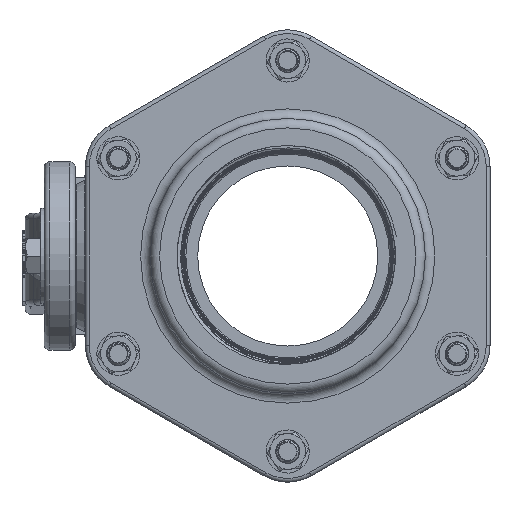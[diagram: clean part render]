
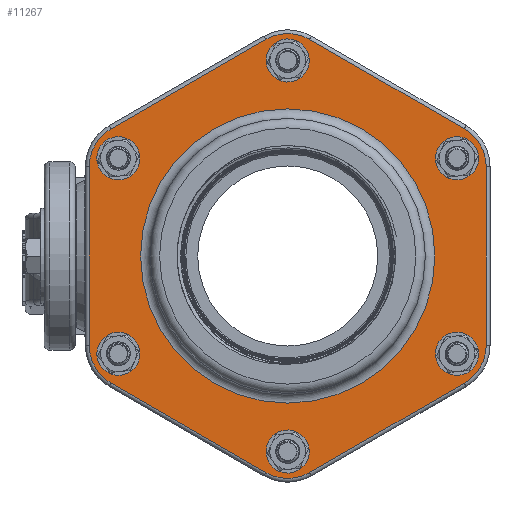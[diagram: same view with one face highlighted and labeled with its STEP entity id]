
A CAD part, left-side view. The second image highlights one B-rep face of the part: STEP entity #11267.
In plain terms, the highlighted planar face has unit normal (-1, 0, 0).
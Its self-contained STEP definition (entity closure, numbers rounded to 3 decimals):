
#2855=PLANE('',#11912);
#3097=VECTOR('',#12875,1.);
#3100=VECTOR('',#12882,1.);
#3101=VECTOR('',#12901,1.);
#3104=VECTOR('',#12908,1.);
#3105=VECTOR('',#12927,1.);
#3108=VECTOR('',#12934,1.);
#3707=LINE('',#55052,#3097);
#3710=LINE('',#55059,#3100);
#3711=LINE('',#55076,#3101);
#3714=LINE('',#55083,#3104);
#3715=LINE('',#55100,#3105);
#3718=LINE('',#55107,#3108);
#4377=VERTEX_POINT('',#55042);
#4378=VERTEX_POINT('',#55044);
#4381=VERTEX_POINT('',#55051);
#4382=VERTEX_POINT('',#55056);
#4385=VERTEX_POINT('',#55063);
#4386=VERTEX_POINT('',#55068);
#4389=VERTEX_POINT('',#55075);
#4390=VERTEX_POINT('',#55080);
#4393=VERTEX_POINT('',#55087);
#4394=VERTEX_POINT('',#55092);
#4397=VERTEX_POINT('',#55099);
#4398=VERTEX_POINT('',#55104);
#4407=VERTEX_POINT('',#55139);
#4408=VERTEX_POINT('',#55141);
#4409=VERTEX_POINT('',#55143);
#4410=VERTEX_POINT('',#55145);
#4411=VERTEX_POINT('',#55147);
#4412=VERTEX_POINT('',#55149);
#4413=VERTEX_POINT('',#55151);
#5213=CIRCLE('',#11869,1.753);
#5219=CIRCLE('',#11878,1.753);
#5223=CIRCLE('',#11883,1.753);
#5227=CIRCLE('',#11890,1.753);
#5231=CIRCLE('',#11895,1.753);
#5235=CIRCLE('',#11902,1.753);
#5239=CIRCLE('',#11913,5.893);
#5240=CIRCLE('',#11914,0.508);
#5241=CIRCLE('',#11915,0.508);
#5242=CIRCLE('',#11916,0.508);
#5243=CIRCLE('',#11917,0.508);
#5244=CIRCLE('',#11918,0.508);
#5245=CIRCLE('',#11919,0.508);
#5702=EDGE_CURVE('',#4377,#4378,#5213,.T.);
#5706=EDGE_CURVE('',#4381,#4377,#3707,.T.);
#5710=EDGE_CURVE('',#4378,#4382,#3710,.T.);
#5712=EDGE_CURVE('',#4385,#4381,#5219,.T.);
#5716=EDGE_CURVE('',#4382,#4386,#5223,.T.);
#5718=EDGE_CURVE('',#4389,#4385,#3711,.T.);
#5722=EDGE_CURVE('',#4386,#4390,#3714,.T.);
#5724=EDGE_CURVE('',#4393,#4389,#5227,.T.);
#5728=EDGE_CURVE('',#4390,#4394,#5231,.T.);
#5730=EDGE_CURVE('',#4397,#4393,#3715,.T.);
#5734=EDGE_CURVE('',#4394,#4398,#3718,.T.);
#5736=EDGE_CURVE('',#4398,#4397,#5235,.T.);
#5750=EDGE_CURVE('',#4407,#4407,#5239,.T.);
#5751=EDGE_CURVE('',#4408,#4408,#5240,.T.);
#5752=EDGE_CURVE('',#4409,#4409,#5241,.T.);
#5753=EDGE_CURVE('',#4410,#4410,#5242,.T.);
#5754=EDGE_CURVE('',#4411,#4411,#5243,.T.);
#5755=EDGE_CURVE('',#4412,#4412,#5244,.T.);
#5756=EDGE_CURVE('',#4413,#4413,#5245,.T.);
#7417=ORIENTED_EDGE('',*,*,#5750,.F.);
#7418=ORIENTED_EDGE('',*,*,#5751,.T.);
#7419=ORIENTED_EDGE('',*,*,#5752,.T.);
#7420=ORIENTED_EDGE('',*,*,#5753,.T.);
#7421=ORIENTED_EDGE('',*,*,#5754,.T.);
#7422=ORIENTED_EDGE('',*,*,#5755,.T.);
#7423=ORIENTED_EDGE('',*,*,#5756,.T.);
#7424=ORIENTED_EDGE('',*,*,#5702,.F.);
#7425=ORIENTED_EDGE('',*,*,#5706,.F.);
#7426=ORIENTED_EDGE('',*,*,#5712,.F.);
#7427=ORIENTED_EDGE('',*,*,#5718,.F.);
#7428=ORIENTED_EDGE('',*,*,#5724,.F.);
#7429=ORIENTED_EDGE('',*,*,#5730,.F.);
#7430=ORIENTED_EDGE('',*,*,#5736,.F.);
#7431=ORIENTED_EDGE('',*,*,#5734,.F.);
#7432=ORIENTED_EDGE('',*,*,#5728,.F.);
#7433=ORIENTED_EDGE('',*,*,#5722,.F.);
#7434=ORIENTED_EDGE('',*,*,#5716,.F.);
#7435=ORIENTED_EDGE('',*,*,#5710,.F.);
#9922=EDGE_LOOP('',(#7417));
#9923=EDGE_LOOP('',(#7418));
#9924=EDGE_LOOP('',(#7419));
#9925=EDGE_LOOP('',(#7420));
#9926=EDGE_LOOP('',(#7421));
#9927=EDGE_LOOP('',(#7422));
#9928=EDGE_LOOP('',(#7423));
#9929=EDGE_LOOP('',(#7424,#7425,#7426,#7427,#7428,#7429,#7430,#7431,#7432,
#7433,#7434,#7435));
#10603=FACE_BOUND('',#9922,.T.);
#10604=FACE_BOUND('',#9923,.T.);
#10605=FACE_BOUND('',#9924,.T.);
#10606=FACE_BOUND('',#9925,.T.);
#10607=FACE_BOUND('',#9926,.T.);
#10608=FACE_BOUND('',#9927,.T.);
#10609=FACE_BOUND('',#9928,.T.);
#10610=FACE_BOUND('',#9929,.T.);
#11267=ADVANCED_FACE('',(#10603,#10604,#10605,#10606,#10607,#10608,#10609,
#10610),#2855,.F.);
#11869=AXIS2_PLACEMENT_3D('',#55043,#12865,#12866);
#11878=AXIS2_PLACEMENT_3D('',#55064,#12886,#12887);
#11883=AXIS2_PLACEMENT_3D('',#55071,#12895,#12896);
#11890=AXIS2_PLACEMENT_3D('',#55088,#12912,#12913);
#11895=AXIS2_PLACEMENT_3D('',#55095,#12921,#12922);
#11902=AXIS2_PLACEMENT_3D('',#55110,#12938,#12939);
#11912=AXIS2_PLACEMENT_3D('',#55137,#12965,$);
#11913=AXIS2_PLACEMENT_3D('',#55138,#12966,#12967);
#11914=AXIS2_PLACEMENT_3D('',#55140,#12968,#12969);
#11915=AXIS2_PLACEMENT_3D('',#55142,#12970,#12971);
#11916=AXIS2_PLACEMENT_3D('',#55144,#12972,#12973);
#11917=AXIS2_PLACEMENT_3D('',#55146,#12974,#12975);
#11918=AXIS2_PLACEMENT_3D('',#55148,#12976,#12977);
#11919=AXIS2_PLACEMENT_3D('',#55150,#12978,#12979);
#12865=DIRECTION('',(1.,0.,0.));
#12866=DIRECTION('',(0.,-1.518,0.876));
#12875=DIRECTION('',(0.,-0.866,-0.5));
#12882=DIRECTION('',(0.,0.,-1.));
#12886=DIRECTION('',(1.,0.,0.));
#12887=DIRECTION('',(0.,0.,1.753));
#12895=DIRECTION('',(1.,0.,0.));
#12896=DIRECTION('',(0.,-1.518,-0.876));
#12901=DIRECTION('',(0.,-0.866,0.5));
#12908=DIRECTION('',(0.,0.866,-0.5));
#12912=DIRECTION('',(1.,0.,0.));
#12913=DIRECTION('',(0.,1.518,0.876));
#12921=DIRECTION('',(1.,0.,0.));
#12922=DIRECTION('',(0.,0.,-1.753));
#12927=DIRECTION('',(0.,0.,1.));
#12934=DIRECTION('',(0.,0.866,0.5));
#12938=DIRECTION('',(1.,0.,0.));
#12939=DIRECTION('',(0.,1.518,-0.876));
#12965=DIRECTION('',(1.,0.,0.));
#12966=DIRECTION('',(-1.,0.,0.));
#12967=DIRECTION('',(0.,0.,-5.893));
#12968=DIRECTION('',(1.,0.,0.));
#12969=DIRECTION('',(0.,0.,0.508));
#12970=DIRECTION('',(1.,0.,0.));
#12971=DIRECTION('',(0.,-0.44,0.254));
#12972=DIRECTION('',(1.,0.,0.));
#12973=DIRECTION('',(0.,-0.44,-0.254));
#12974=DIRECTION('',(1.,0.,0.));
#12975=DIRECTION('',(0.,0.,-0.508));
#12976=DIRECTION('',(1.,0.,0.));
#12977=DIRECTION('',(0.,0.44,-0.254));
#12978=DIRECTION('',(1.,0.,0.));
#12979=DIRECTION('',(0.,0.44,0.254));
#55042=CARTESIAN_POINT('',(0.,-7.074,5.096));
#55043=CARTESIAN_POINT('',(0.,-6.198,3.578));
#55044=CARTESIAN_POINT('',(0.,-7.95,3.578));
#55051=CARTESIAN_POINT('',(0.,-0.876,8.674));
#55052=CARTESIAN_POINT('',(0.,-3.975,6.885));
#55056=CARTESIAN_POINT('',(0.,-7.95,-3.578));
#55059=CARTESIAN_POINT('',(0.,-7.95,0.));
#55063=CARTESIAN_POINT('',(0.,0.876,8.674));
#55064=CARTESIAN_POINT('',(0.,0.,7.156));
#55068=CARTESIAN_POINT('',(0.,-7.074,-5.096));
#55071=CARTESIAN_POINT('',(0.,-6.198,-3.578));
#55075=CARTESIAN_POINT('',(0.,7.074,5.096));
#55076=CARTESIAN_POINT('',(0.,3.975,6.885));
#55080=CARTESIAN_POINT('',(0.,-0.876,-8.674));
#55083=CARTESIAN_POINT('',(0.,-3.975,-6.885));
#55087=CARTESIAN_POINT('',(0.,7.95,3.578));
#55088=CARTESIAN_POINT('',(0.,6.198,3.578));
#55092=CARTESIAN_POINT('',(0.,0.876,-8.674));
#55095=CARTESIAN_POINT('',(0.,0.,-7.156));
#55099=CARTESIAN_POINT('',(0.,7.95,-3.578));
#55100=CARTESIAN_POINT('',(0.,7.95,0.));
#55104=CARTESIAN_POINT('',(0.,7.074,-5.096));
#55107=CARTESIAN_POINT('',(0.,3.975,-6.885));
#55110=CARTESIAN_POINT('',(0.,6.198,-3.578));
#55137=CARTESIAN_POINT('',(0.,0.,0.));
#55138=CARTESIAN_POINT('',(0.,0.,0.));
#55139=CARTESIAN_POINT('',(0.,0.,5.893));
#55140=CARTESIAN_POINT('',(0.,6.782,3.915));
#55141=CARTESIAN_POINT('',(0.,6.782,3.407));
#55142=CARTESIAN_POINT('',(0.,0.,7.831));
#55143=CARTESIAN_POINT('',(0.,0.44,7.577));
#55144=CARTESIAN_POINT('',(0.,-6.782,3.915));
#55145=CARTESIAN_POINT('',(0.,-6.342,4.169));
#55146=CARTESIAN_POINT('',(0.,-6.782,-3.915));
#55147=CARTESIAN_POINT('',(0.,-6.782,-3.407));
#55148=CARTESIAN_POINT('',(0.,0.,-7.831));
#55149=CARTESIAN_POINT('',(0.,-0.44,-7.577));
#55150=CARTESIAN_POINT('',(0.,6.782,-3.915));
#55151=CARTESIAN_POINT('',(0.,6.342,-4.169));
